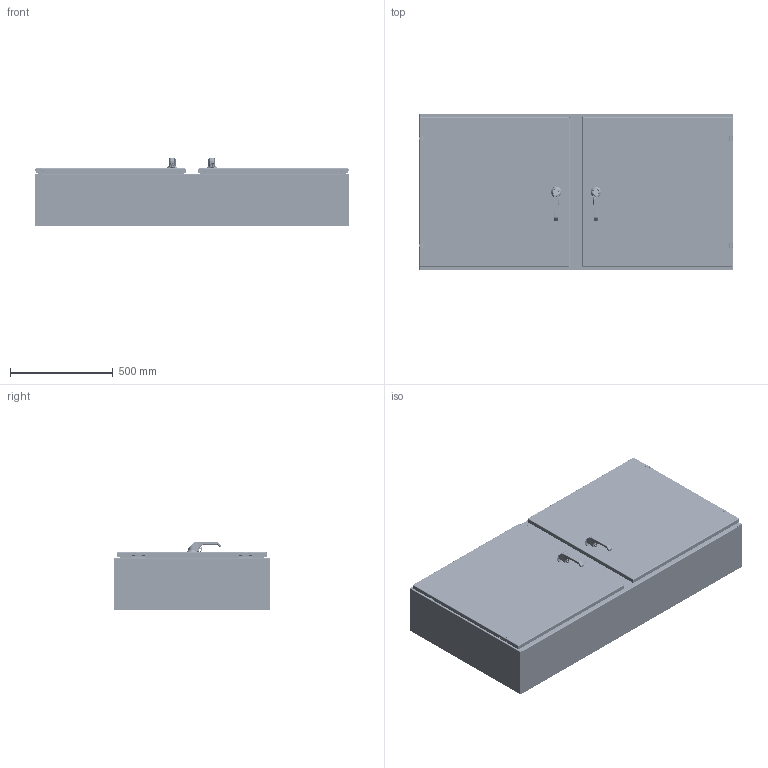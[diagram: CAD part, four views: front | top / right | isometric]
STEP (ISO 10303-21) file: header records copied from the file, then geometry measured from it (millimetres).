
FILE_DESCRIPTION((''),'2;1');
FILE_NAME('MODEL-324_ASM','2025-12-29T15:51:59',('ChadS'),('SAGINAW CONTROL & ENGINEERING'),'CREO PARAMETRIC BY PTC INC, 2021284','CREO PARAMETRIC BY PTC INC, 2021284','');
FILE_SCHEMA(('AUTOMOTIVE_DESIGN { 1 0 10303 214 1 1 1 1 }'));
Length unit declared in the file: inch
Products named in the file (76): MODEL-324-BDY; MODEL-324-TP; MODEL-324-BTM; 128379; 100028; 128379_ASM; MODEL-324-CCA-CHNL; 100062; 127618; 128380; 102535; MODEL-324-CCASSY_ASM; MODEL-324-R-DR; 100837; 100882; 111267; 100955_SCREW_MTG; 100955_PADLOCK_CATCH; 100955_SCREW_LARGE; 100955_INSERT_SHAFT; 100955_INSERT_PKH; 100955_GASKET; 100955_O-RING; 100955_BASE; 100955_SPRING; 100955_HANDLE; 100955_CAM_SHAFT; 100955_HANDLE_ASM; 100955_CAM_ADAPTER; 100955_EARTH_NUT; 100955_FLANGE_NUT; 100955_CAM_NUT; 100955_KEY_INSERT; 100955_SPRING_CAM; 100955_TORSION_SPRING; 100955_SCREW_INSERT; 100955_ASM; 102236; 100030; 102236_ASM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
Assembly tree (169 placements, depth 5):
  MODEL-324_ASM
    MODEL-324-BDY
    MODEL-324-TP
    MODEL-324-BTM
    128379_ASM  x2
      128379
      100028
    MODEL-324-CCASSY_ASM
      MODEL-324-CCA-CHNL
      100062  x2
      127618  x2
      128380  x2
      102535  x8
    MODEL-324-RIGHT-DR-ASSY_ASM
      MODEL-324-R-DR
      100837  x5
      100882  x4
      111267
      100955_ASM
        100955_SCREW_MTG
        100955_PADLOCK_CATCH
        100955_SCREW_LARGE  x2
        100955_INSERT_SHAFT
        100955_INSERT_PKH
        100955_GASKET
        100955_O-RING
        100955_BASE
        100955_SPRING
        100955_HANDLE_ASM
          100955_HANDLE
          100955_CAM_SHAFT
        100955_CAM_ADAPTER
        100955_EARTH_NUT
        100955_FLANGE_NUT
        100955_CAM_NUT
        100955_KEY_INSERT
        100955_SPRING_CAM
        100955_TORSION_SPRING
        100955_SCREW_INSERT
      102236_ASM
        102236
        100030  x2
      MODEL-324-ROD-UPR-RD_ASM
        MODEL-324-ROD-UPR-RD
        128146
        128145
        128144
        102482  x2
      128143  x2
      112504  x2
      MODEL-324-ROD-LWR-RD_ASM
        MODEL-324-ROD-LWR-RD
        128146
        128145
        128144
        102482  x2
      MODEL-324-GSKT-R-DR
      126391_ASM  x2
        126391
      126393  x2
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Bounding box: 1524 x 762 x 332.5 mm (x, y, z)
Volume: 12013592.1 mm3; surface area: 10713922.9 mm2
Topology: 197 solids, 197 shells, 17184 faces, 42894 edges, 26048 vertices
Faces by surface type: plane 6089, cylinder 4563, bspline 3036, torus 1566, cone 1266, sphere 604, extrusion 60
Entity records: 375193 total; most frequent: CARTESIAN_POINT 148904, ORIENTED_EDGE 34992, DIRECTION 31983, PRESENTATION_STYLE_ASSIGNMENT 17571, STYLED_ITEM 17566, CURVE_STYLE 17496, EDGE_CURVE 17496, AXIS2_PLACEMENT_3D 11813
